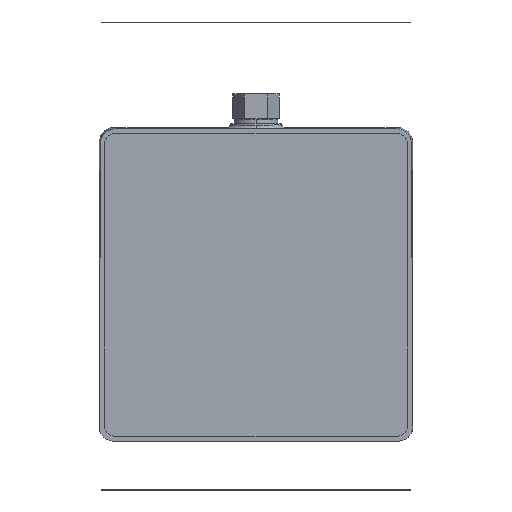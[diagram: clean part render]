
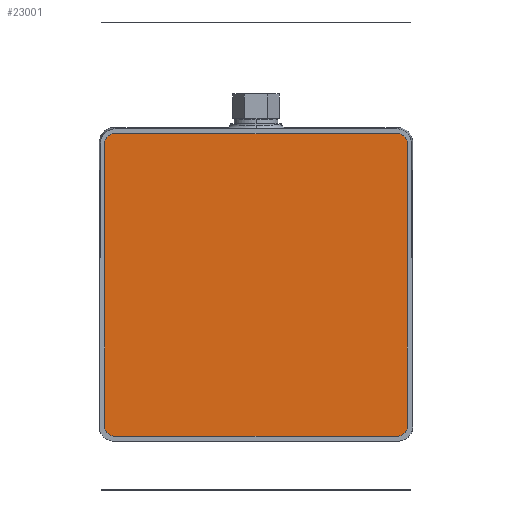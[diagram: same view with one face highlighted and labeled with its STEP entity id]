
A CAD part, front view. The second image highlights one B-rep face of the part: STEP entity #23001.
In plain terms, the highlighted planar face has unit normal (0, -1, 0).
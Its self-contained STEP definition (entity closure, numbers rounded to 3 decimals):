
#961 = CARTESIAN_POINT ( 'NONE',  ( -78., -2., 167.584 ) ) ;
#962 = CARTESIAN_POINT ( 'NONE',  ( 78., -2., 162.584 ) ) ;
#963 = DIRECTION ( 'NONE',  ( 0., 1., 0. ) ) ;
#964 = DIRECTION ( 'NONE',  ( 0., 0., 1. ) ) ;
#965 = DIRECTION ( 'NONE',  ( 0., 0., 1. ) ) ;
#967 = DIRECTION ( 'NONE',  ( 1., 0., 0. ) ) ;
#969 = CARTESIAN_POINT ( 'NONE',  ( -83., -2., 6.584 ) ) ;
#973 = CARTESIAN_POINT ( 'NONE',  ( -78., -2., 162.584 ) ) ;
#974 = DIRECTION ( 'NONE',  ( 0., 1., 0. ) ) ;
#975 = DIRECTION ( 'NONE',  ( 0., 0., 1. ) ) ;
#2929 = CARTESIAN_POINT ( 'NONE',  ( -78., -2., 1.584 ) ) ;
#2931 = CARTESIAN_POINT ( 'NONE',  ( -78., -2., 6.584 ) ) ;
#2932 = DIRECTION ( 'NONE',  ( 0., 1., 0. ) ) ;
#2933 = DIRECTION ( 'NONE',  ( 0., 0., 1. ) ) ;
#2937 = DIRECTION ( 'NONE',  ( -1., 0., 0. ) ) ;
#2941 = CARTESIAN_POINT ( 'NONE',  ( 83., -2., 6.584 ) ) ;
#2942 = CARTESIAN_POINT ( 'NONE',  ( 78., -2., 6.584 ) ) ;
#2943 = DIRECTION ( 'NONE',  ( 0., 1., 0. ) ) ;
#2944 = DIRECTION ( 'NONE',  ( 0., 0., -1. ) ) ;
#2945 = DIRECTION ( 'NONE',  ( 0., 0., -1. ) ) ;
#2953 = AXIS2_PLACEMENT_3D ( 'NONE', #2931, #2932, #2933 ) ;
#2954 = AXIS2_PLACEMENT_3D ( 'NONE', #2942, #2943, #2944 ) ;
#2955 = AXIS2_PLACEMENT_3D ( 'NONE', #962, #963, #964 ) ;
#2956 = AXIS2_PLACEMENT_3D ( 'NONE', #973, #974, #975 ) ;
#5333 = CIRCLE ( 'NONE', #2953, 5. ) ;
#5338 = LINE ( 'NONE', #2929, #5344 ) ;
#5341 = CIRCLE ( 'NONE', #2954, 5. ) ;
#5344 = VECTOR ( 'NONE', #2937, 1000. ) ;
#5345 = LINE ( 'NONE', #2941, #5351 ) ;
#5348 = CIRCLE ( 'NONE', #2955, 5. ) ;
#5351 = VECTOR ( 'NONE', #2945, 1000. ) ;
#5352 = LINE ( 'NONE', #961, #5358 ) ;
#5355 = CIRCLE ( 'NONE', #2956, 5. ) ;
#5358 = VECTOR ( 'NONE', #967, 1000. ) ;
#5361 = LINE ( 'NONE', #969, #5363 ) ;
#5363 = VECTOR ( 'NONE', #965, 1000. ) ;
#6778 = FACE_OUTER_BOUND ( 'NONE', #17732, .T. ) ;
#8284 = AXIS2_PLACEMENT_3D ( 'NONE', #10101, #10102, #10103 ) ;
#10082 = PLANE ( 'NONE',  #8284 ) ;
#10101 = CARTESIAN_POINT ( 'NONE',  ( -78., -2., 6.584 ) ) ;
#10102 = DIRECTION ( 'NONE',  ( 0., 1., 0. ) ) ;
#10103 = DIRECTION ( 'NONE',  ( 0., 0., 1. ) ) ;
#14355 = EDGE_CURVE ( 'NONE', #17120, #17117, #5333, .T. ) ;
#14358 = EDGE_CURVE ( 'NONE', #17119, #17120, #5338, .T. ) ;
#14360 = EDGE_CURVE ( 'NONE', #17142, #17119, #5341, .T. ) ;
#14362 = EDGE_CURVE ( 'NONE', #17115, #17142, #5345, .T. ) ;
#14364 = EDGE_CURVE ( 'NONE', #17114, #17115, #5348, .T. ) ;
#14366 = EDGE_CURVE ( 'NONE', #17113, #17114, #5352, .T. ) ;
#14368 = EDGE_CURVE ( 'NONE', #17112, #17113, #5355, .T. ) ;
#14369 = EDGE_CURVE ( 'NONE', #17117, #17112, #5361, .T. ) ;
#15982 = ORIENTED_EDGE ( 'NONE', *, *, #14355, .F. ) ;
#15983 = ORIENTED_EDGE ( 'NONE', *, *, #14358, .F. ) ;
#15984 = ORIENTED_EDGE ( 'NONE', *, *, #14360, .F. ) ;
#15985 = ORIENTED_EDGE ( 'NONE', *, *, #14362, .F. ) ;
#15986 = ORIENTED_EDGE ( 'NONE', *, *, #14364, .F. ) ;
#15987 = ORIENTED_EDGE ( 'NONE', *, *, #14366, .F. ) ;
#15988 = ORIENTED_EDGE ( 'NONE', *, *, #14368, .F. ) ;
#15989 = ORIENTED_EDGE ( 'NONE', *, *, #14369, .F. ) ;
#17112 = VERTEX_POINT ( 'NONE', #22237 ) ;
#17113 = VERTEX_POINT ( 'NONE', #22238 ) ;
#17114 = VERTEX_POINT ( 'NONE', #22239 ) ;
#17115 = VERTEX_POINT ( 'NONE', #22240 ) ;
#17117 = VERTEX_POINT ( 'NONE', #22242 ) ;
#17119 = VERTEX_POINT ( 'NONE', #22244 ) ;
#17120 = VERTEX_POINT ( 'NONE', #22245 ) ;
#17142 = VERTEX_POINT ( 'NONE', #22267 ) ;
#17732 = EDGE_LOOP ( 'NONE', ( #15982, #15983, #15984, #15985, #15986, #15987, #15988, #15989 ) ) ;
#22237 = CARTESIAN_POINT ( 'NONE',  ( -83., -2., 162.584 ) ) ;
#22238 = CARTESIAN_POINT ( 'NONE',  ( -78., -2., 167.584 ) ) ;
#22239 = CARTESIAN_POINT ( 'NONE',  ( 78., -2., 167.584 ) ) ;
#22240 = CARTESIAN_POINT ( 'NONE',  ( 83., -2., 162.584 ) ) ;
#22242 = CARTESIAN_POINT ( 'NONE',  ( -83., -2., 6.584 ) ) ;
#22244 = CARTESIAN_POINT ( 'NONE',  ( 78., -2., 1.584 ) ) ;
#22245 = CARTESIAN_POINT ( 'NONE',  ( -78., -2., 1.584 ) ) ;
#22267 = CARTESIAN_POINT ( 'NONE',  ( 83., -2., 6.584 ) ) ;
#23001 = ADVANCED_FACE ( 'NONE', ( #6778 ), #10082, .F. ) ;
